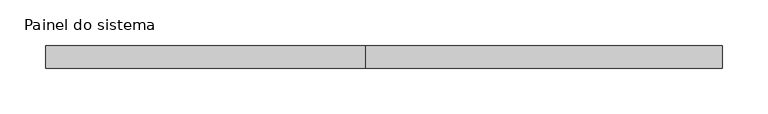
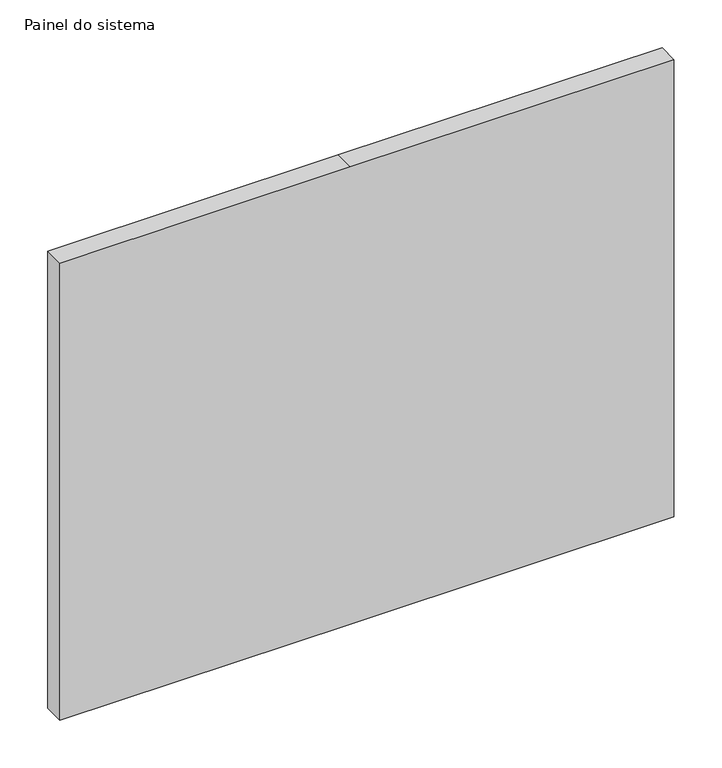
"""IFC4 building model written with IfcOpenShell, lengths in millimetres: plate geometry, Painel do sistema : Envidraçado."""

from ifc_helpers import new_model, si_unit, frame, origin, place, context, project, spatial, polyline, outline, extrude, source, transform, mapped, element, save


def painel_do_sistema_3306e146(model_context):
    return source(origin(), model_context, "Body", "SweptSolid", [
        extrude(outline(polyline([(0.0, -371.6829921), (0.0, -19.983504), (0.0, 371.6829921), (585.0, 371.6829921), (585.0, -19.983504), (585.0, -371.6829921), (0.0, -371.6829921)])), frame((0.0, 24.5, 0.0), z_axis=(0.0, 1.0, 0.0), x_axis=(0.0, 0.0, 1.0)), (0.0, 0.0, 1.0), 25.0),
    ])


if __name__ == "__main__":
    model = new_model("IFC4")
    model_context = context("Model", 3, world=origin())
    ifc_project = project(units=[si_unit("LENGTHUNIT", "METRE", prefix="MILLI")], contexts=[model_context])
    site = spatial("IfcSite", under=ifc_project)
    building = spatial("IfcBuilding", under=site)
    placement = place(None, origin())
    painel_do_sistema_shape = painel_do_sistema_3306e146(model_context)
    element("IfcPlate", 1, ObjectType="Painel do sistema : Envidraçado", at=placement, inside=building, context=model_context, shape_type="MappedRepresentation", body=[
        mapped(painel_do_sistema_shape, transform((0.0, 0.0, 0.0), x_axis=(1.0, 0.0, 0.0), y_axis=(0.0, 1.0, 0.0), z_axis=(0.0, 0.0, 1.0))),
    ])
    save(model, "model.ifc")
